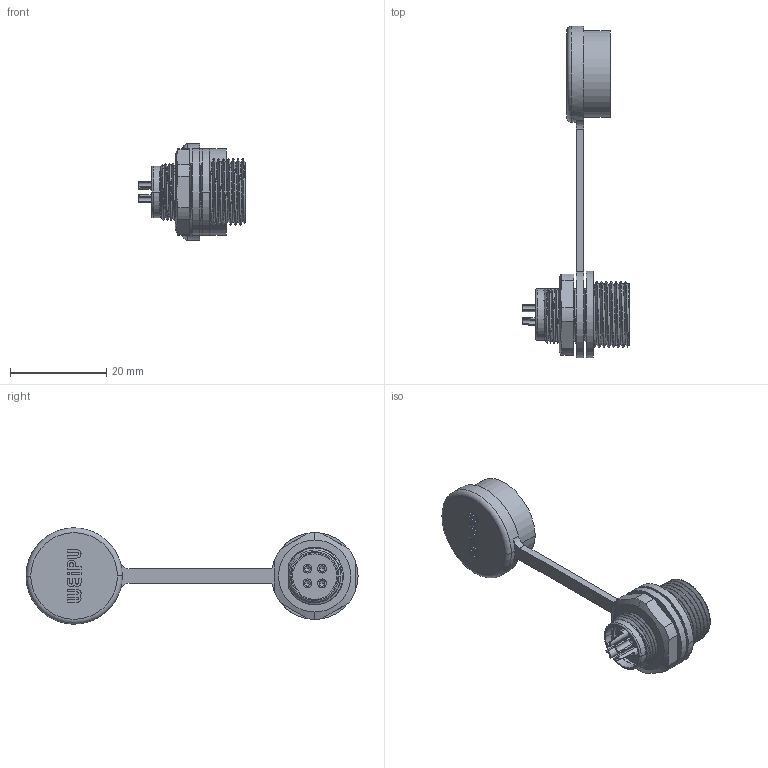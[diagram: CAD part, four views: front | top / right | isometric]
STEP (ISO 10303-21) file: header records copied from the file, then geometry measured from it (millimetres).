
FILE_DESCRIPTION((''),'2;1');
FILE_NAME('ST1212P4','2020-01-17T',('Administrator'),(''),'CREO PARAMETRIC BY PTC INC, 2016130','CREO PARAMETRIC BY PTC INC, 2016130','');
FILE_SCHEMA(('CONFIG_CONTROL_DESIGN'));
Length unit declared in the file: millimetre
Products named in the file (1): ST1212P4
Bounding box: 22.2 x 69 x 20 mm (x, y, z)
Volume: 3736.8 mm3; surface area: 4586.9 mm2
Topology: 1 solids, 1 shells, 268 faces, 708 edges, 451 vertices
Faces by surface type: plane 102, cylinder 95, bspline 38, cone 19, sphere 8, torus 6
Entity records: 15823 total; most frequent: CARTESIAN_POINT 9501, ORIENTED_EDGE 1380, DIRECTION 1185, EDGE_CURVE 690, VERTEX_POINT 451, AXIS2_PLACEMENT_3D 431, VECTOR 323, LINE 323
